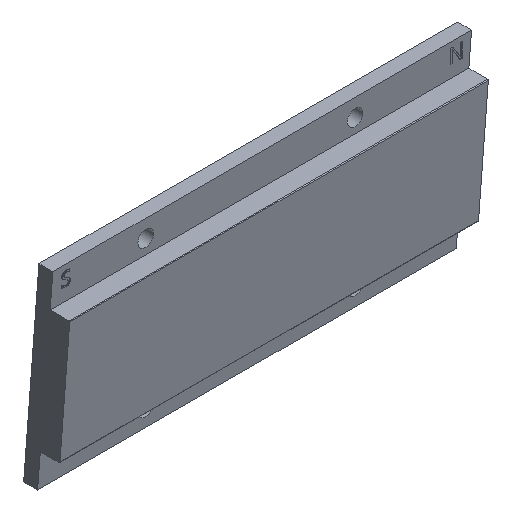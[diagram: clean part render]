
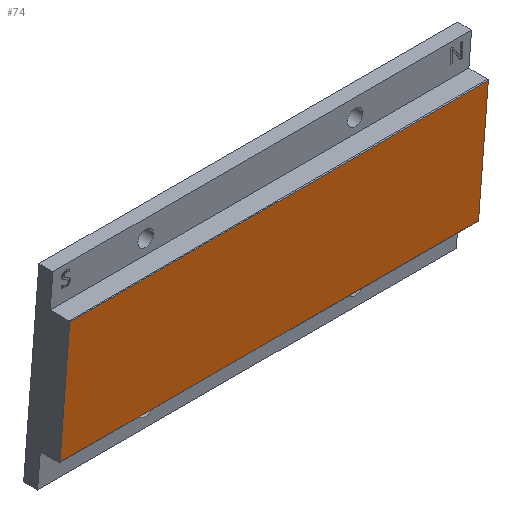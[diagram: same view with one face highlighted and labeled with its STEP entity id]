
A CAD part, isometric view. The second image highlights one B-rep face of the part: STEP entity #74.
In plain terms, the highlighted planar face has unit normal (0, -1, 0).
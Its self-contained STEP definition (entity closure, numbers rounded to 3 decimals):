
#74 = ADVANCED_FACE( '', ( #170 ), #171, .T. );
#170 = FACE_OUTER_BOUND( '', #294, .T. );
#171 = PLANE( '', #295 );
#294 = EDGE_LOOP( '', ( #458, #459, #460, #461 ) );
#295 = AXIS2_PLACEMENT_3D( '', #462, #463, #464 );
#458 = ORIENTED_EDGE( '', *, *, #808, .T. );
#459 = ORIENTED_EDGE( '', *, *, #809, .T. );
#460 = ORIENTED_EDGE( '', *, *, #810, .T. );
#461 = ORIENTED_EDGE( '', *, *, #811, .T. );
#462 = CARTESIAN_POINT( '', ( 0., -5.6, 0. ) );
#463 = DIRECTION( '', ( 0., -1., 0. ) );
#464 = DIRECTION( '', ( 0., 0., -1. ) );
#808 = EDGE_CURVE( '', #956, #957, #958, .T. );
#809 = EDGE_CURVE( '', #957, #959, #960, .T. );
#810 = EDGE_CURVE( '', #959, #961, #962, .T. );
#811 = EDGE_CURVE( '', #961, #956, #963, .T. );
#956 = VERTEX_POINT( '', #1239 );
#957 = VERTEX_POINT( '', #1240 );
#958 = LINE( '', #1241, #1242 );
#959 = VERTEX_POINT( '', #1243 );
#960 = LINE( '', #1244, #1245 );
#961 = VERTEX_POINT( '', #1246 );
#962 = LINE( '', #1247, #1248 );
#963 = LINE( '', #1249, #1250 );
#1239 = CARTESIAN_POINT( '', ( -195.973, -5.6, -36.278 ) );
#1240 = CARTESIAN_POINT( '', ( -198.777, -5.6, -69.678 ) );
#1241 = CARTESIAN_POINT( '', ( -195.956, -5.6, -36.078 ) );
#1242 = VECTOR( '', #1536, 1000. );
#1243 = CARTESIAN_POINT( '', ( -78.777, -5.6, -69.678 ) );
#1244 = CARTESIAN_POINT( '', ( 101.206, -5.6, -69.678 ) );
#1245 = VECTOR( '', #1537, 1000. );
#1246 = CARTESIAN_POINT( '', ( -75.973, -5.6, -36.278 ) );
#1247 = CARTESIAN_POINT( '', ( -78.794, -5.6, -69.878 ) );
#1248 = VECTOR( '', #1538, 1000. );
#1249 = CARTESIAN_POINT( '', ( -195.956, -5.6, -36.278 ) );
#1250 = VECTOR( '', #1539, 1000. );
#1536 = DIRECTION( '', ( -0.084, 0., -0.996 ) );
#1537 = DIRECTION( '', ( 1., 0., 0. ) );
#1538 = DIRECTION( '', ( 0.084, 0., 0.996 ) );
#1539 = DIRECTION( '', ( -1., 0., 0. ) );
